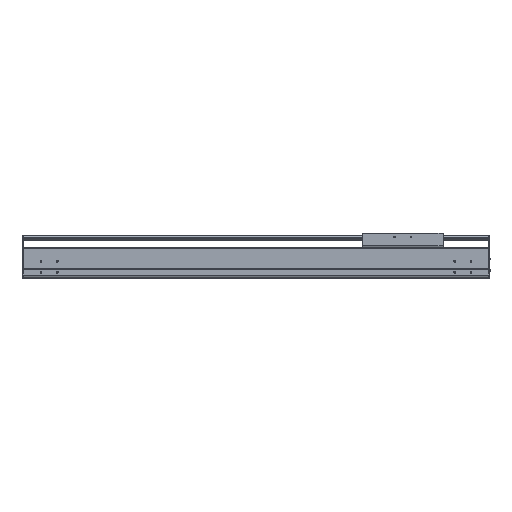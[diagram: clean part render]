
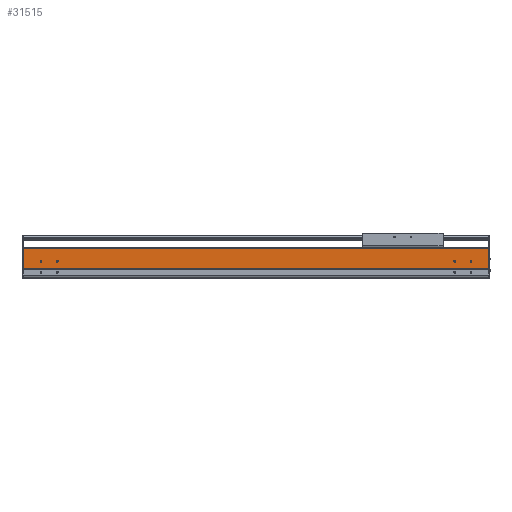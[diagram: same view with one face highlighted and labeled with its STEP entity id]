
A CAD part, top view. The second image highlights one B-rep face of the part: STEP entity #31515.
In plain terms, the highlighted planar face has unit normal (0, 0, -1).
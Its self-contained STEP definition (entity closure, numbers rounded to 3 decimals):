
#22250=DIRECTION('',(-1.,0.,0.));
#22251=VECTOR('',#22250,1439.);
#22252=CARTESIAN_POINT('',(0.,93.5,107.));
#22253=LINE('',#22252,#22251);
#22258=DIRECTION('',(0.,-1.,0.));
#22259=VECTOR('',#22258,61.4);
#22260=CARTESIAN_POINT('',(-1439.,93.5,107.));
#22261=LINE('',#22260,#22259);
#22262=DIRECTION('',(1.,0.,0.));
#22263=VECTOR('',#22262,1439.);
#22264=CARTESIAN_POINT('',(-1439.,32.1,107.));
#22265=LINE('',#22264,#22263);
#22266=CARTESIAN_POINT('',(-54.5,54.,107.));
#22267=DIRECTION('',(0.,0.,-1.));
#22268=DIRECTION('',(1.,0.,0.));
#22269=AXIS2_PLACEMENT_3D('',#22266,#22267,#22268);
#22271=CARTESIAN_POINT('',(-54.5,54.,107.));
#22272=DIRECTION('',(0.,0.,-1.));
#22273=DIRECTION('',(-1.,0.,0.));
#22274=AXIS2_PLACEMENT_3D('',#22271,#22272,#22273);
#22276=CARTESIAN_POINT('',(-104.5,54.,107.));
#22277=DIRECTION('',(0.,0.,-1.));
#22278=DIRECTION('',(1.,0.,0.));
#22279=AXIS2_PLACEMENT_3D('',#22276,#22277,#22278);
#22281=CARTESIAN_POINT('',(-104.5,54.,107.));
#22282=DIRECTION('',(0.,0.,-1.));
#22283=DIRECTION('',(-1.,0.,0.));
#22284=AXIS2_PLACEMENT_3D('',#22281,#22282,#22283);
#22286=CARTESIAN_POINT('',(-1384.5,54.,107.));
#22287=DIRECTION('',(0.,0.,-1.));
#22288=DIRECTION('',(1.,0.,0.));
#22289=AXIS2_PLACEMENT_3D('',#22286,#22287,#22288);
#22291=CARTESIAN_POINT('',(-1384.5,54.,107.));
#22292=DIRECTION('',(0.,0.,-1.));
#22293=DIRECTION('',(-1.,0.,0.));
#22294=AXIS2_PLACEMENT_3D('',#22291,#22292,#22293);
#22296=CARTESIAN_POINT('',(-1334.5,54.,107.));
#22297=DIRECTION('',(0.,0.,-1.));
#22298=DIRECTION('',(1.,0.,0.));
#22299=AXIS2_PLACEMENT_3D('',#22296,#22297,#22298);
#22301=CARTESIAN_POINT('',(-1334.5,54.,107.));
#22302=DIRECTION('',(0.,0.,-1.));
#22303=DIRECTION('',(-1.,0.,0.));
#22304=AXIS2_PLACEMENT_3D('',#22301,#22302,#22303);
#23491=DIRECTION('',(0.,-1.,0.));
#23492=VECTOR('',#23491,61.4);
#23493=CARTESIAN_POINT('',(0.,93.5,107.));
#23494=LINE('',#23493,#23492);
#28020=CARTESIAN_POINT('',(-1439.,32.1,107.));
#28021=VERTEX_POINT('',#28020);
#28022=CARTESIAN_POINT('',(-1439.,93.5,107.));
#28023=VERTEX_POINT('',#28022);
#28831=CARTESIAN_POINT('',(0.,32.1,107.));
#28832=VERTEX_POINT('',#28831);
#28833=CARTESIAN_POINT('',(0.,93.5,107.));
#28834=VERTEX_POINT('',#28833);
#28835=CARTESIAN_POINT('',(-52.,54.,107.));
#28836=CARTESIAN_POINT('',(-57.,54.,107.));
#28837=VERTEX_POINT('',#28835);
#28838=VERTEX_POINT('',#28836);
#28839=CARTESIAN_POINT('',(-102.,54.,107.));
#28840=CARTESIAN_POINT('',(-107.,54.,107.));
#28841=VERTEX_POINT('',#28839);
#28842=VERTEX_POINT('',#28840);
#28843=CARTESIAN_POINT('',(-1382.,54.,107.));
#28844=CARTESIAN_POINT('',(-1387.,54.,107.));
#28845=VERTEX_POINT('',#28843);
#28846=VERTEX_POINT('',#28844);
#28847=CARTESIAN_POINT('',(-1332.,54.,107.));
#28848=CARTESIAN_POINT('',(-1337.,54.,107.));
#28849=VERTEX_POINT('',#28847);
#28850=VERTEX_POINT('',#28848);
#31478=CARTESIAN_POINT('',(-719.5,62.8,107.));
#31479=DIRECTION('',(0.,0.,1.));
#31480=DIRECTION('',(0.,-1.,0.));
#31481=AXIS2_PLACEMENT_3D('',#31478,#31479,#31480);
#31482=PLANE('',#31481);
#31483=ORIENTED_EDGE('',*,*,#29782,.T.);
#31485=ORIENTED_EDGE('',*,*,#31484,.T.);
#31487=ORIENTED_EDGE('',*,*,#31486,.F.);
#31488=ORIENTED_EDGE('',*,*,#31470,.T.);
#31489=EDGE_LOOP('',(#31483,#31485,#31487,#31488));
#31490=FACE_OUTER_BOUND('',#31489,.F.);
#31492=ORIENTED_EDGE('',*,*,#31491,.T.);
#31494=ORIENTED_EDGE('',*,*,#31493,.T.);
#31495=EDGE_LOOP('',(#31492,#31494));
#31496=FACE_BOUND('',#31495,.F.);
#31498=ORIENTED_EDGE('',*,*,#31497,.T.);
#31500=ORIENTED_EDGE('',*,*,#31499,.T.);
#31501=EDGE_LOOP('',(#31498,#31500));
#31502=FACE_BOUND('',#31501,.F.);
#31504=ORIENTED_EDGE('',*,*,#31503,.T.);
#31506=ORIENTED_EDGE('',*,*,#31505,.T.);
#31507=EDGE_LOOP('',(#31504,#31506));
#31508=FACE_BOUND('',#31507,.F.);
#31510=ORIENTED_EDGE('',*,*,#31509,.T.);
#31512=ORIENTED_EDGE('',*,*,#31511,.T.);
#31513=EDGE_LOOP('',(#31510,#31512));
#31514=FACE_BOUND('',#31513,.F.);
#31515=ADVANCED_FACE('',(#31490,#31496,#31502,#31508,#31514),#31482,.F.);
#22270=CIRCLE('',#22269,2.5);
#22275=CIRCLE('',#22274,2.5);
#22280=CIRCLE('',#22279,2.5);
#22285=CIRCLE('',#22284,2.5);
#22290=CIRCLE('',#22289,2.5);
#22295=CIRCLE('',#22294,2.5);
#22300=CIRCLE('',#22299,2.5);
#22305=CIRCLE('',#22304,2.5);
#29782=EDGE_CURVE('',#28023,#28021,#22261,.T.);
#31470=EDGE_CURVE('',#28834,#28023,#22253,.T.);
#31484=EDGE_CURVE('',#28021,#28832,#22265,.T.);
#31486=EDGE_CURVE('',#28834,#28832,#23494,.T.);
#31491=EDGE_CURVE('',#28837,#28838,#22270,.T.);
#31493=EDGE_CURVE('',#28838,#28837,#22275,.T.);
#31497=EDGE_CURVE('',#28841,#28842,#22280,.T.);
#31499=EDGE_CURVE('',#28842,#28841,#22285,.T.);
#31503=EDGE_CURVE('',#28845,#28846,#22290,.T.);
#31505=EDGE_CURVE('',#28846,#28845,#22295,.T.);
#31509=EDGE_CURVE('',#28849,#28850,#22300,.T.);
#31511=EDGE_CURVE('',#28850,#28849,#22305,.T.);
